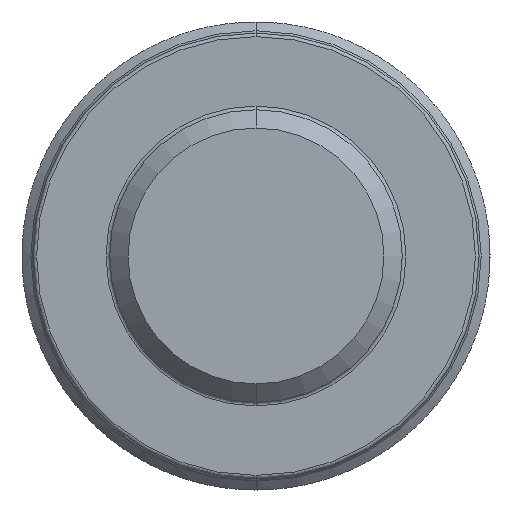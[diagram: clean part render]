
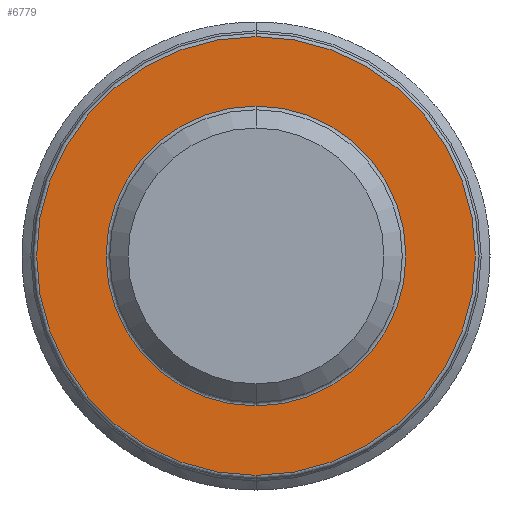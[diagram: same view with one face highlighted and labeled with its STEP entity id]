
A CAD part, front view. The second image highlights one B-rep face of the part: STEP entity #6779.
In plain terms, the highlighted planar face has unit normal (0, -1, 0).
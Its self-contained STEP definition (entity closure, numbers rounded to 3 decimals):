
#465 = EDGE_CURVE ( 'NONE', #563, #5957, #4272, .T. ) ;
#563 = VERTEX_POINT ( 'NONE', #5158 ) ;
#613 = CIRCLE ( 'NONE', #5734, 6. ) ;
#688 = DIRECTION ( 'NONE',  ( 0., -1., 0. ) ) ;
#737 = DIRECTION ( 'NONE',  ( 0., 0., -1. ) ) ;
#826 = AXIS2_PLACEMENT_3D ( 'NONE', #1625, #4267, #5501 ) ;
#968 = CIRCLE ( 'NONE', #4316, 4.1 ) ;
#1090 = CARTESIAN_POINT ( 'NONE',  ( 0., -8., 0. ) ) ;
#1238 = FACE_BOUND ( 'NONE', #8259, .T. ) ;
#1325 = EDGE_LOOP ( 'NONE', ( #3884, #6184 ) ) ;
#1428 = CARTESIAN_POINT ( 'NONE',  ( 0., -8., -6. ) ) ;
#1625 = CARTESIAN_POINT ( 'NONE',  ( 0., -8., 0. ) ) ;
#1719 = DIRECTION ( 'NONE',  ( 0., 0., -1. ) ) ;
#1943 = DIRECTION ( 'NONE',  ( 0., -1., 0. ) ) ;
#3258 = DIRECTION ( 'NONE',  ( 0., 0., -1. ) ) ;
#3495 = DIRECTION ( 'NONE',  ( 0., -1., 0. ) ) ;
#3800 = DIRECTION ( 'NONE',  ( 0., 0., -1. ) ) ;
#3815 = DIRECTION ( 'NONE',  ( 0., 1., 0. ) ) ;
#3850 = AXIS2_PLACEMENT_3D ( 'NONE', #5067, #688, #3258 ) ;
#3884 = ORIENTED_EDGE ( 'NONE', *, *, #7075, .T. ) ;
#3895 = FACE_OUTER_BOUND ( 'NONE', #1325, .T. ) ;
#4057 = CARTESIAN_POINT ( 'NONE',  ( 0., -8., -4.1 ) ) ;
#4235 = VERTEX_POINT ( 'NONE', #4057 ) ;
#4267 = DIRECTION ( 'NONE',  ( 0., 1., 0. ) ) ;
#4272 = CIRCLE ( 'NONE', #4823, 6. ) ;
#4316 = AXIS2_PLACEMENT_3D ( 'NONE', #7112, #3815, #737 ) ;
#4547 = CARTESIAN_POINT ( 'NONE',  ( 0., -8., 4.1 ) ) ;
#4611 = VERTEX_POINT ( 'NONE', #4547 ) ;
#4823 = AXIS2_PLACEMENT_3D ( 'NONE', #1090, #3495, #1719 ) ;
#5067 = CARTESIAN_POINT ( 'NONE',  ( 4., -8., 0. ) ) ;
#5158 = CARTESIAN_POINT ( 'NONE',  ( 0., -8., 6. ) ) ;
#5276 = EDGE_CURVE ( 'NONE', #4235, #4611, #968, .T. ) ;
#5501 = DIRECTION ( 'NONE',  ( 0., 0., -1. ) ) ;
#5512 = ORIENTED_EDGE ( 'NONE', *, *, #5516, .T. ) ;
#5516 = EDGE_CURVE ( 'NONE', #4611, #4235, #8107, .T. ) ;
#5620 = ORIENTED_EDGE ( 'NONE', *, *, #5276, .T. ) ;
#5734 = AXIS2_PLACEMENT_3D ( 'NONE', #6376, #1943, #3800 ) ;
#5957 = VERTEX_POINT ( 'NONE', #1428 ) ;
#6184 = ORIENTED_EDGE ( 'NONE', *, *, #465, .T. ) ;
#6376 = CARTESIAN_POINT ( 'NONE',  ( 0., -8., 0. ) ) ;
#6475 = PLANE ( 'NONE',  #3850 ) ;
#6779 = ADVANCED_FACE ( 'NONE', ( #1238, #3895 ), #6475, .T. ) ;
#7075 = EDGE_CURVE ( 'NONE', #5957, #563, #613, .T. ) ;
#7112 = CARTESIAN_POINT ( 'NONE',  ( 0., -8., 0. ) ) ;
#8107 = CIRCLE ( 'NONE', #826, 4.1 ) ;
#8259 = EDGE_LOOP ( 'NONE', ( #5620, #5512 ) ) ;
